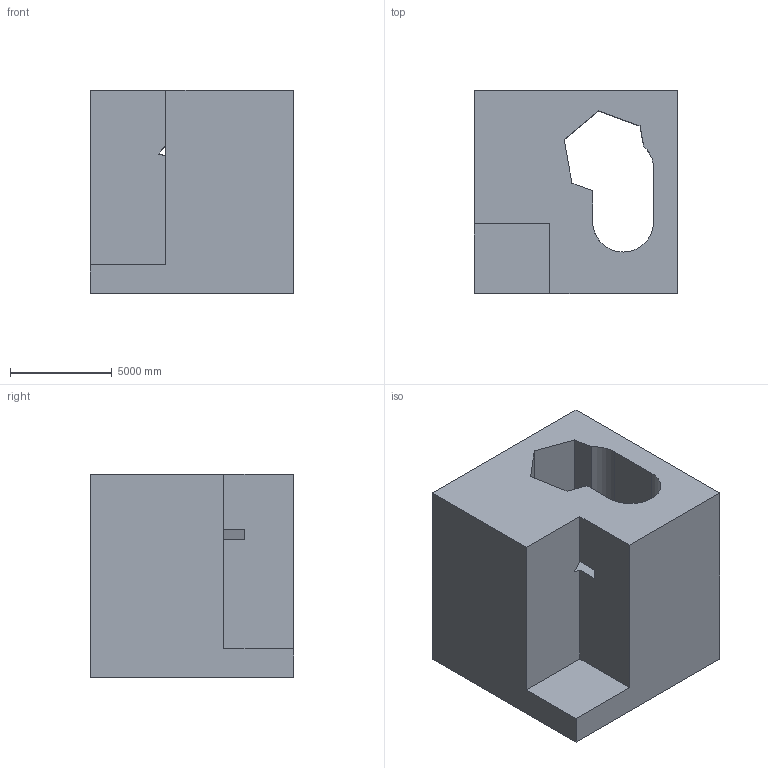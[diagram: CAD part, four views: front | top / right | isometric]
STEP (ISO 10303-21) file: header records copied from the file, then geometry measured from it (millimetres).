
FILE_DESCRIPTION (( 'STEP AP203' ), '1' );
FILE_NAME ('1304.STEP', '2022-08-18T13:39:32', ( 'user' ), ( '' ), 'SwSTEP 2.0', 'SolidWorks 2021', '' );
FILE_SCHEMA (( 'CONFIG_CONTROL_DESIGN' ));
Length unit declared in the file: centimetre
Products named in the file (1): 1304
Bounding box: 10000 x 10000 x 10000 mm (x, y, z)
Volume: 657511522954.9 mm3; surface area: 777686648.3 mm2
Topology: 1 solids, 1 shells, 26 faces, 81 edges, 54 vertices
Faces by surface type: plane 24, cylinder 2
Entity records: 978 total; most frequent: CARTESIAN_POINT 168, ORIENTED_EDGE 162, DIRECTION 137, EDGE_CURVE 81, LINE 75, VECTOR 75, VERTEX_POINT 54, AXIS2_PLACEMENT_3D 31
